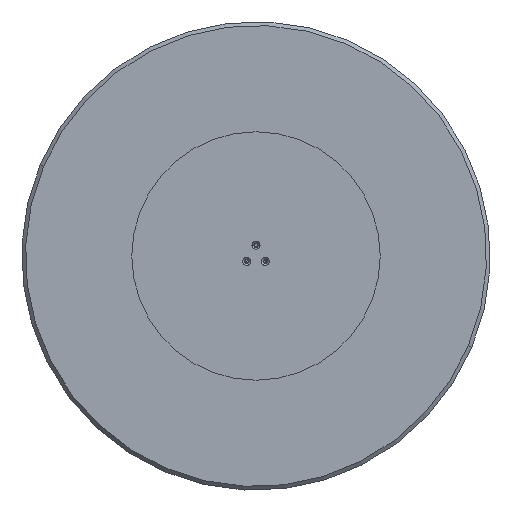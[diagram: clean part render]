
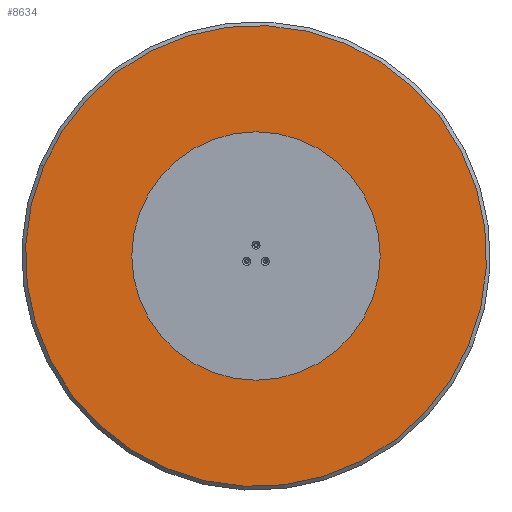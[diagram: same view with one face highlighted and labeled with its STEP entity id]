
A CAD part, front view. The second image highlights one B-rep face of the part: STEP entity #8634.
In plain terms, the highlighted planar face has unit normal (0, -1, 0).
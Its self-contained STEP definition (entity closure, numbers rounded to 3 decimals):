
#352 = FACE_OUTER_BOUND ( 'NONE', #5206, .T. ) ;
#1502 = CARTESIAN_POINT ( 'NONE',  ( 0., 0., 0. ) ) ;
#1542 = CARTESIAN_POINT ( 'NONE',  ( 0., 0., 492. ) ) ;
#2329 = CARTESIAN_POINT ( 'NONE',  ( 0., 0., 0. ) ) ;
#2716 = CARTESIAN_POINT ( 'NONE',  ( 0., 0., 0. ) ) ;
#2855 = DIRECTION ( 'NONE',  ( 0., 0., -1. ) ) ;
#2873 = EDGE_CURVE ( 'NONE', #5152, #2920, #4436, .T. ) ;
#2920 = VERTEX_POINT ( 'NONE', #3156 ) ;
#3040 = DIRECTION ( 'NONE',  ( 0., 0., -1. ) ) ;
#3156 = CARTESIAN_POINT ( 'NONE',  ( 0., 0., -492. ) ) ;
#3430 = DIRECTION ( 'NONE',  ( 0., 0., -1. ) ) ;
#4043 = ORIENTED_EDGE ( 'NONE', *, *, #2873, .T. ) ;
#4436 = CIRCLE ( 'NONE', #8481, 492. ) ;
#4565 = AXIS2_PLACEMENT_3D ( 'NONE', #2716, #5468, #2855 ) ;
#4999 = DIRECTION ( 'NONE',  ( 0., -1., 0. ) ) ;
#5152 = VERTEX_POINT ( 'NONE', #1542 ) ;
#5206 = EDGE_LOOP ( 'NONE', ( #4043, #6104 ) ) ;
#5399 = AXIS2_PLACEMENT_3D ( 'NONE', #2329, #4999, #3040 ) ;
#5468 = DIRECTION ( 'NONE',  ( 0., -1., 0. ) ) ;
#6104 = ORIENTED_EDGE ( 'NONE', *, *, #7822, .T. ) ;
#7612 = CIRCLE ( 'NONE', #4565, 492. ) ;
#7659 = PLANE ( 'NONE',  #5399 ) ;
#7822 = EDGE_CURVE ( 'NONE', #2920, #5152, #7612, .T. ) ;
#8106 = DIRECTION ( 'NONE',  ( 0., -1., 0. ) ) ;
#8481 = AXIS2_PLACEMENT_3D ( 'NONE', #1502, #8106, #3430 ) ;
#8634 = ADVANCED_FACE ( 'NONE', ( #352 ), #7659, .T. ) ;
